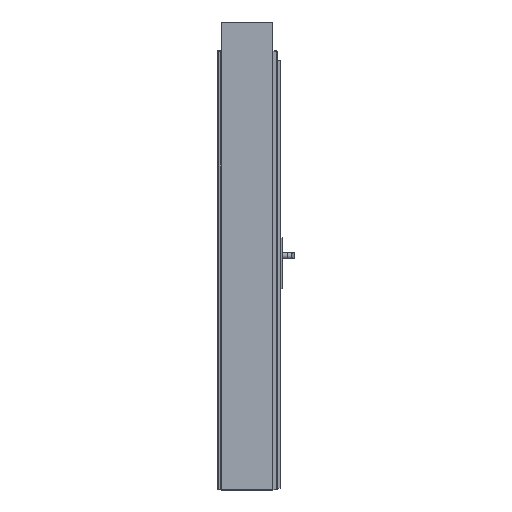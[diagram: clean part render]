
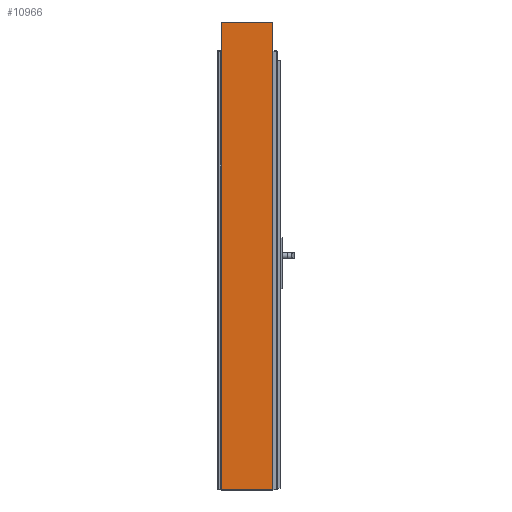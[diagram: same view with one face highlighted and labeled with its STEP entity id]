
A CAD part, left-side view. The second image highlights one B-rep face of the part: STEP entity #10966.
In plain terms, the highlighted planar face has unit normal (-1, 0, 0).
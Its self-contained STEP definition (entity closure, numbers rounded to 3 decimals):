
#10966=ADVANCED_FACE('',(#22315),#17863,.T.);
#17863=PLANE('',#127364);
#22315=FACE_OUTER_BOUND('',#28543,.T.);
#28543=EDGE_LOOP('',(#36394,#36395,#36396,#36397));
#36394=ORIENTED_EDGE('',*,*,#83620,.T.);
#36395=ORIENTED_EDGE('',*,*,#83619,.T.);
#36396=ORIENTED_EDGE('',*,*,#83621,.F.);
#36397=ORIENTED_EDGE('',*,*,#83599,.T.);
#71850=VERTEX_POINT('',#169322);
#71852=VERTEX_POINT('',#169325);
#71864=VERTEX_POINT('',#169361);
#71865=VERTEX_POINT('',#169363);
#83599=EDGE_CURVE('',#71852,#71850,#101341,.T.);
#83619=EDGE_CURVE('',#71864,#71865,#101361,.T.);
#83620=EDGE_CURVE('',#71850,#71864,#101362,.T.);
#83621=EDGE_CURVE('',#71852,#71865,#101363,.T.);
#101341=LINE('',#169324,#114349);
#101361=LINE('',#169364,#114369);
#101362=LINE('',#169366,#114370);
#101363=LINE('',#169367,#114371);
#114349=VECTOR('',#137011,1.);
#114369=VECTOR('',#137043,1.);
#114370=VECTOR('',#137046,1.);
#114371=VECTOR('',#137047,1.);
#127364=AXIS2_PLACEMENT_3D('',#169368,#137048,#137049);
#137011=DIRECTION('',(0.,-1.,0.));
#137043=DIRECTION('',(0.,1.,0.));
#137046=DIRECTION('',(0.,0.,1.));
#137047=DIRECTION('',(0.,0.,1.));
#137048=DIRECTION('',(-1.,0.,0.));
#137049=DIRECTION('',(0.,0.,1.));
#169322=CARTESIAN_POINT('',(-603.,-13.3,-7.75));
#169324=CARTESIAN_POINT('',(-603.,230.4,-7.75));
#169325=CARTESIAN_POINT('',(-603.,230.4,-7.75));
#169361=CARTESIAN_POINT('',(-603.,-13.3,2212.25));
#169363=CARTESIAN_POINT('',(-603.,230.4,2212.25));
#169364=CARTESIAN_POINT('',(-603.,230.4,2212.25));
#169366=CARTESIAN_POINT('',(-603.,-13.3,2212.25));
#169367=CARTESIAN_POINT('',(-603.,230.4,2212.25));
#169368=CARTESIAN_POINT('',(-603.,230.4,2212.25));
